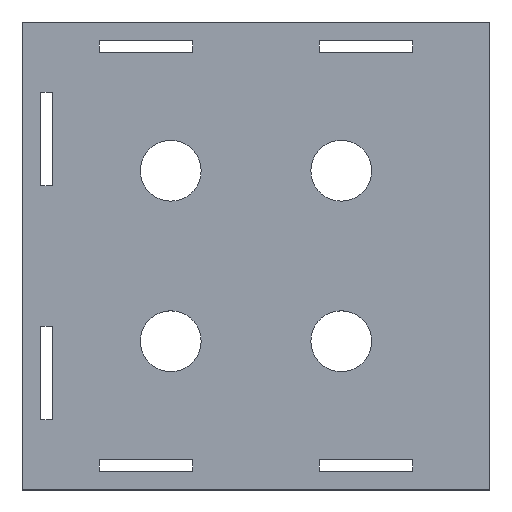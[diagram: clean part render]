
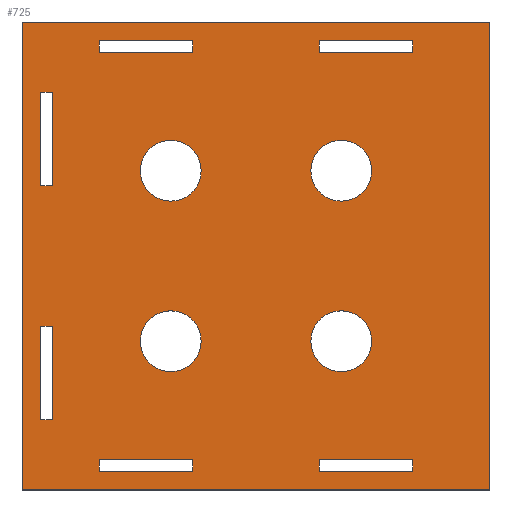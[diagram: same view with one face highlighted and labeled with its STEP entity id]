
A CAD part, top view. The second image highlights one B-rep face of the part: STEP entity #725.
In plain terms, the highlighted planar face has unit normal (0, 0, 1).
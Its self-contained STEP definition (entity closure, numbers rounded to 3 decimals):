
#15=FACE_BOUND('',#132,.T.);
#16=FACE_BOUND('',#133,.T.);
#17=FACE_BOUND('',#134,.T.);
#18=FACE_BOUND('',#135,.T.);
#19=FACE_BOUND('',#136,.T.);
#20=FACE_BOUND('',#137,.T.);
#21=FACE_BOUND('',#138,.T.);
#22=FACE_BOUND('',#139,.T.);
#23=FACE_BOUND('',#140,.T.);
#24=FACE_BOUND('',#141,.T.);
#63=PLANE('',#787);
#97=FACE_OUTER_BOUND('',#131,.T.);
#131=EDGE_LOOP('',(#625,#626,#627,#628));
#132=EDGE_LOOP('',(#629));
#133=EDGE_LOOP('',(#630));
#134=EDGE_LOOP('',(#631));
#135=EDGE_LOOP('',(#632));
#136=EDGE_LOOP('',(#633,#634,#635,#636));
#137=EDGE_LOOP('',(#637,#638,#639,#640));
#138=EDGE_LOOP('',(#641,#642,#643,#644));
#139=EDGE_LOOP('',(#645,#646,#647,#648));
#140=EDGE_LOOP('',(#649,#650,#651,#652));
#141=EDGE_LOOP('',(#653,#654,#655,#656));
#159=LINE('',#995,#247);
#162=LINE('',#1001,#250);
#165=LINE('',#1007,#253);
#168=LINE('',#1011,#256);
#171=LINE('',#1019,#259);
#174=LINE('',#1025,#262);
#177=LINE('',#1031,#265);
#180=LINE('',#1035,#268);
#183=LINE('',#1043,#271);
#186=LINE('',#1049,#274);
#189=LINE('',#1055,#277);
#192=LINE('',#1059,#280);
#195=LINE('',#1067,#283);
#198=LINE('',#1073,#286);
#201=LINE('',#1079,#289);
#204=LINE('',#1083,#292);
#207=LINE('',#1091,#295);
#210=LINE('',#1097,#298);
#213=LINE('',#1103,#301);
#216=LINE('',#1107,#304);
#219=LINE('',#1115,#307);
#222=LINE('',#1121,#310);
#225=LINE('',#1127,#313);
#228=LINE('',#1131,#316);
#231=LINE('',#1139,#319);
#234=LINE('',#1145,#322);
#237=LINE('',#1151,#325);
#240=LINE('',#1155,#328);
#247=VECTOR('',#823,10.);
#250=VECTOR('',#828,10.);
#253=VECTOR('',#833,10.);
#256=VECTOR('',#838,10.);
#259=VECTOR('',#843,10.);
#262=VECTOR('',#848,10.);
#265=VECTOR('',#853,10.);
#268=VECTOR('',#858,10.);
#271=VECTOR('',#863,10.);
#274=VECTOR('',#868,10.);
#277=VECTOR('',#873,10.);
#280=VECTOR('',#878,10.);
#283=VECTOR('',#883,10.);
#286=VECTOR('',#888,10.);
#289=VECTOR('',#893,10.);
#292=VECTOR('',#898,10.);
#295=VECTOR('',#903,10.);
#298=VECTOR('',#908,10.);
#301=VECTOR('',#913,10.);
#304=VECTOR('',#918,10.);
#307=VECTOR('',#923,10.);
#310=VECTOR('',#928,10.);
#313=VECTOR('',#933,10.);
#316=VECTOR('',#938,10.);
#319=VECTOR('',#943,10.);
#322=VECTOR('',#948,10.);
#325=VECTOR('',#953,10.);
#328=VECTOR('',#958,10.);
#329=CIRCLE('',#748,6.5);
#331=CIRCLE('',#751,6.5);
#333=CIRCLE('',#754,6.5);
#335=CIRCLE('',#757,6.5);
#337=VERTEX_POINT('',#965);
#339=VERTEX_POINT('',#971);
#341=VERTEX_POINT('',#977);
#343=VERTEX_POINT('',#983);
#347=VERTEX_POINT('',#992);
#348=VERTEX_POINT('',#994);
#350=VERTEX_POINT('',#1000);
#352=VERTEX_POINT('',#1006);
#355=VERTEX_POINT('',#1016);
#356=VERTEX_POINT('',#1018);
#358=VERTEX_POINT('',#1024);
#360=VERTEX_POINT('',#1030);
#363=VERTEX_POINT('',#1040);
#364=VERTEX_POINT('',#1042);
#366=VERTEX_POINT('',#1048);
#368=VERTEX_POINT('',#1054);
#371=VERTEX_POINT('',#1064);
#372=VERTEX_POINT('',#1066);
#374=VERTEX_POINT('',#1072);
#376=VERTEX_POINT('',#1078);
#379=VERTEX_POINT('',#1088);
#380=VERTEX_POINT('',#1090);
#382=VERTEX_POINT('',#1096);
#384=VERTEX_POINT('',#1102);
#387=VERTEX_POINT('',#1112);
#388=VERTEX_POINT('',#1114);
#390=VERTEX_POINT('',#1120);
#392=VERTEX_POINT('',#1126);
#395=VERTEX_POINT('',#1136);
#396=VERTEX_POINT('',#1138);
#398=VERTEX_POINT('',#1144);
#400=VERTEX_POINT('',#1150);
#401=EDGE_CURVE('',#337,#337,#329,.T.);
#404=EDGE_CURVE('',#339,#339,#331,.T.);
#407=EDGE_CURVE('',#341,#341,#333,.T.);
#410=EDGE_CURVE('',#343,#343,#335,.T.);
#415=EDGE_CURVE('',#348,#347,#159,.T.);
#418=EDGE_CURVE('',#350,#348,#162,.T.);
#421=EDGE_CURVE('',#352,#350,#165,.T.);
#424=EDGE_CURVE('',#347,#352,#168,.T.);
#427=EDGE_CURVE('',#356,#355,#171,.T.);
#430=EDGE_CURVE('',#358,#356,#174,.T.);
#433=EDGE_CURVE('',#360,#358,#177,.T.);
#436=EDGE_CURVE('',#355,#360,#180,.T.);
#439=EDGE_CURVE('',#364,#363,#183,.T.);
#442=EDGE_CURVE('',#366,#364,#186,.T.);
#445=EDGE_CURVE('',#368,#366,#189,.T.);
#448=EDGE_CURVE('',#363,#368,#192,.T.);
#451=EDGE_CURVE('',#372,#371,#195,.T.);
#454=EDGE_CURVE('',#374,#372,#198,.T.);
#457=EDGE_CURVE('',#376,#374,#201,.T.);
#460=EDGE_CURVE('',#371,#376,#204,.T.);
#463=EDGE_CURVE('',#380,#379,#207,.T.);
#466=EDGE_CURVE('',#382,#380,#210,.T.);
#469=EDGE_CURVE('',#384,#382,#213,.T.);
#472=EDGE_CURVE('',#379,#384,#216,.T.);
#475=EDGE_CURVE('',#388,#387,#219,.T.);
#478=EDGE_CURVE('',#390,#388,#222,.T.);
#481=EDGE_CURVE('',#392,#390,#225,.T.);
#484=EDGE_CURVE('',#387,#392,#228,.T.);
#487=EDGE_CURVE('',#396,#395,#231,.T.);
#490=EDGE_CURVE('',#398,#396,#234,.T.);
#493=EDGE_CURVE('',#400,#398,#237,.T.);
#496=EDGE_CURVE('',#395,#400,#240,.T.);
#625=ORIENTED_EDGE('',*,*,#496,.T.);
#626=ORIENTED_EDGE('',*,*,#493,.T.);
#627=ORIENTED_EDGE('',*,*,#490,.T.);
#628=ORIENTED_EDGE('',*,*,#487,.T.);
#629=ORIENTED_EDGE('',*,*,#401,.T.);
#630=ORIENTED_EDGE('',*,*,#404,.T.);
#631=ORIENTED_EDGE('',*,*,#407,.T.);
#632=ORIENTED_EDGE('',*,*,#410,.T.);
#633=ORIENTED_EDGE('',*,*,#484,.T.);
#634=ORIENTED_EDGE('',*,*,#481,.T.);
#635=ORIENTED_EDGE('',*,*,#478,.T.);
#636=ORIENTED_EDGE('',*,*,#475,.T.);
#637=ORIENTED_EDGE('',*,*,#472,.T.);
#638=ORIENTED_EDGE('',*,*,#469,.T.);
#639=ORIENTED_EDGE('',*,*,#466,.T.);
#640=ORIENTED_EDGE('',*,*,#463,.T.);
#641=ORIENTED_EDGE('',*,*,#460,.T.);
#642=ORIENTED_EDGE('',*,*,#457,.T.);
#643=ORIENTED_EDGE('',*,*,#454,.T.);
#644=ORIENTED_EDGE('',*,*,#451,.T.);
#645=ORIENTED_EDGE('',*,*,#448,.T.);
#646=ORIENTED_EDGE('',*,*,#445,.T.);
#647=ORIENTED_EDGE('',*,*,#442,.T.);
#648=ORIENTED_EDGE('',*,*,#439,.T.);
#649=ORIENTED_EDGE('',*,*,#436,.T.);
#650=ORIENTED_EDGE('',*,*,#433,.T.);
#651=ORIENTED_EDGE('',*,*,#430,.T.);
#652=ORIENTED_EDGE('',*,*,#427,.T.);
#653=ORIENTED_EDGE('',*,*,#424,.T.);
#654=ORIENTED_EDGE('',*,*,#421,.T.);
#655=ORIENTED_EDGE('',*,*,#418,.T.);
#656=ORIENTED_EDGE('',*,*,#415,.T.);
#725=ADVANCED_FACE('',(#97,#15,#16,#17,#18,#19,#20,#21,#22,#23,#24),#63,
 .T.);
#748=AXIS2_PLACEMENT_3D('',#966,#793,#794);
#751=AXIS2_PLACEMENT_3D('',#972,#800,#801);
#754=AXIS2_PLACEMENT_3D('',#978,#807,#808);
#757=AXIS2_PLACEMENT_3D('',#984,#814,#815);
#787=AXIS2_PLACEMENT_3D('',#1156,#959,#960);
#793=DIRECTION('center_axis',(0.,0.,-1.));
#794=DIRECTION('ref_axis',(1.,0.,0.));
#800=DIRECTION('center_axis',(0.,0.,-1.));
#801=DIRECTION('ref_axis',(1.,0.,0.));
#807=DIRECTION('center_axis',(0.,0.,-1.));
#808=DIRECTION('ref_axis',(1.,0.,0.));
#814=DIRECTION('center_axis',(0.,0.,-1.));
#815=DIRECTION('ref_axis',(1.,0.,0.));
#823=DIRECTION('',(0.,1.,0.));
#828=DIRECTION('',(-1.,0.,0.));
#833=DIRECTION('',(0.,-1.,0.));
#838=DIRECTION('',(1.,0.,0.));
#843=DIRECTION('',(-1.,0.,0.));
#848=DIRECTION('',(0.,-1.,0.));
#853=DIRECTION('',(1.,0.,0.));
#858=DIRECTION('',(0.,1.,0.));
#863=DIRECTION('',(-1.,0.,0.));
#868=DIRECTION('',(0.,-1.,0.));
#873=DIRECTION('',(1.,0.,0.));
#878=DIRECTION('',(0.,1.,0.));
#883=DIRECTION('',(-1.,0.,0.));
#888=DIRECTION('',(0.,-1.,0.));
#893=DIRECTION('',(1.,0.,0.));
#898=DIRECTION('',(0.,1.,0.));
#903=DIRECTION('',(1.,0.,0.));
#908=DIRECTION('',(0.,1.,0.));
#913=DIRECTION('',(-1.,0.,0.));
#918=DIRECTION('',(0.,-1.,0.));
#923=DIRECTION('',(0.,-1.,0.));
#928=DIRECTION('',(1.,0.,0.));
#933=DIRECTION('',(0.,1.,0.));
#938=DIRECTION('',(-1.,0.,0.));
#943=DIRECTION('',(1.,0.,0.));
#948=DIRECTION('',(0.,-1.,0.));
#953=DIRECTION('',(-1.,0.,0.));
#958=DIRECTION('',(0.,1.,0.));
#959=DIRECTION('center_axis',(0.,0.,1.));
#960=DIRECTION('ref_axis',(1.,0.,0.));
#965=CARTESIAN_POINT('',(-9.714,-27.786,2.5));
#966=CARTESIAN_POINT('Origin',(-3.214,-27.786,2.5));
#971=CARTESIAN_POINT('',(-9.714,-64.214,2.5));
#972=CARTESIAN_POINT('Origin',(-3.214,-64.214,2.5));
#977=CARTESIAN_POINT('',(26.714,-64.214,2.5));
#978=CARTESIAN_POINT('Origin',(33.214,-64.214,2.5));
#983=CARTESIAN_POINT('',(26.714,-27.786,2.5));
#984=CARTESIAN_POINT('Origin',(33.214,-27.786,2.5));
#992=CARTESIAN_POINT('',(-18.5,0.,2.5));
#994=CARTESIAN_POINT('',(-18.5,-2.5,2.5));
#995=CARTESIAN_POINT('',(-18.5,-2.5,2.5));
#1000=CARTESIAN_POINT('',(1.5,-2.5,2.5));
#1001=CARTESIAN_POINT('',(1.5,-2.5,2.5));
#1006=CARTESIAN_POINT('',(1.5,0.,2.5));
#1007=CARTESIAN_POINT('',(1.5,0.,2.5));
#1011=CARTESIAN_POINT('',(-18.5,0.,2.5));
#1016=CARTESIAN_POINT('',(28.5,-2.5,2.5));
#1018=CARTESIAN_POINT('',(48.5,-2.5,2.5));
#1019=CARTESIAN_POINT('',(48.5,-2.5,2.5));
#1024=CARTESIAN_POINT('',(48.5,0.,2.5));
#1025=CARTESIAN_POINT('',(48.5,0.,2.5));
#1030=CARTESIAN_POINT('',(28.5,0.,2.5));
#1031=CARTESIAN_POINT('',(28.5,0.,2.5));
#1035=CARTESIAN_POINT('',(28.5,-2.5,2.5));
#1040=CARTESIAN_POINT('',(-31.,-31.,2.5));
#1042=CARTESIAN_POINT('',(-28.5,-31.,2.5));
#1043=CARTESIAN_POINT('',(-28.5,-31.,2.5));
#1048=CARTESIAN_POINT('',(-28.5,-11.,2.5));
#1049=CARTESIAN_POINT('',(-28.5,-11.,2.5));
#1054=CARTESIAN_POINT('',(-31.,-11.,2.5));
#1055=CARTESIAN_POINT('',(-31.,-11.,2.5));
#1059=CARTESIAN_POINT('',(-31.,-31.,2.5));
#1064=CARTESIAN_POINT('',(-31.,-81.,2.5));
#1066=CARTESIAN_POINT('',(-28.5,-81.,2.5));
#1067=CARTESIAN_POINT('',(-28.5,-81.,2.5));
#1072=CARTESIAN_POINT('',(-28.5,-61.,2.5));
#1073=CARTESIAN_POINT('',(-28.5,-61.,2.5));
#1078=CARTESIAN_POINT('',(-31.,-61.,2.5));
#1079=CARTESIAN_POINT('',(-31.,-61.,2.5));
#1083=CARTESIAN_POINT('',(-31.,-81.,2.5));
#1088=CARTESIAN_POINT('',(1.5,-89.5,2.5));
#1090=CARTESIAN_POINT('',(-18.5,-89.5,2.5));
#1091=CARTESIAN_POINT('',(-18.5,-89.5,2.5));
#1096=CARTESIAN_POINT('',(-18.5,-92.,2.5));
#1097=CARTESIAN_POINT('',(-18.5,-92.,2.5));
#1102=CARTESIAN_POINT('',(1.5,-92.,2.5));
#1103=CARTESIAN_POINT('',(1.5,-92.,2.5));
#1107=CARTESIAN_POINT('',(1.5,-89.5,2.5));
#1112=CARTESIAN_POINT('',(48.5,-92.,2.5));
#1114=CARTESIAN_POINT('',(48.5,-89.5,2.5));
#1115=CARTESIAN_POINT('',(48.5,-89.5,2.5));
#1120=CARTESIAN_POINT('',(28.5,-89.5,2.5));
#1121=CARTESIAN_POINT('',(28.5,-89.5,2.5));
#1126=CARTESIAN_POINT('',(28.5,-92.,2.5));
#1127=CARTESIAN_POINT('',(28.5,-92.,2.5));
#1131=CARTESIAN_POINT('',(48.5,-92.,2.5));
#1136=CARTESIAN_POINT('',(65.,-96.,2.5));
#1138=CARTESIAN_POINT('',(-35.,-96.,2.5));
#1139=CARTESIAN_POINT('',(-35.,-96.,2.5));
#1144=CARTESIAN_POINT('',(-35.,4.,2.5));
#1145=CARTESIAN_POINT('',(-35.,4.,2.5));
#1150=CARTESIAN_POINT('',(65.,4.,2.5));
#1151=CARTESIAN_POINT('',(65.,4.,2.5));
#1155=CARTESIAN_POINT('',(65.,-96.,2.5));
#1156=CARTESIAN_POINT('Origin',(15.,-46.,2.5));
